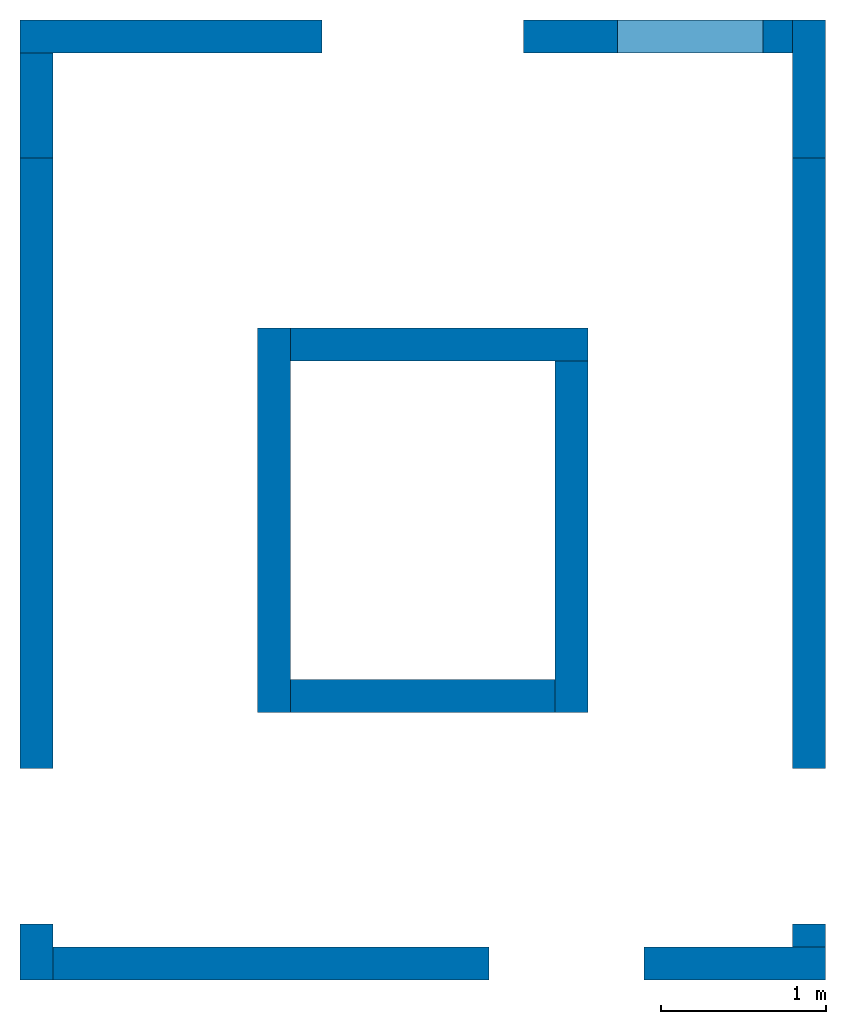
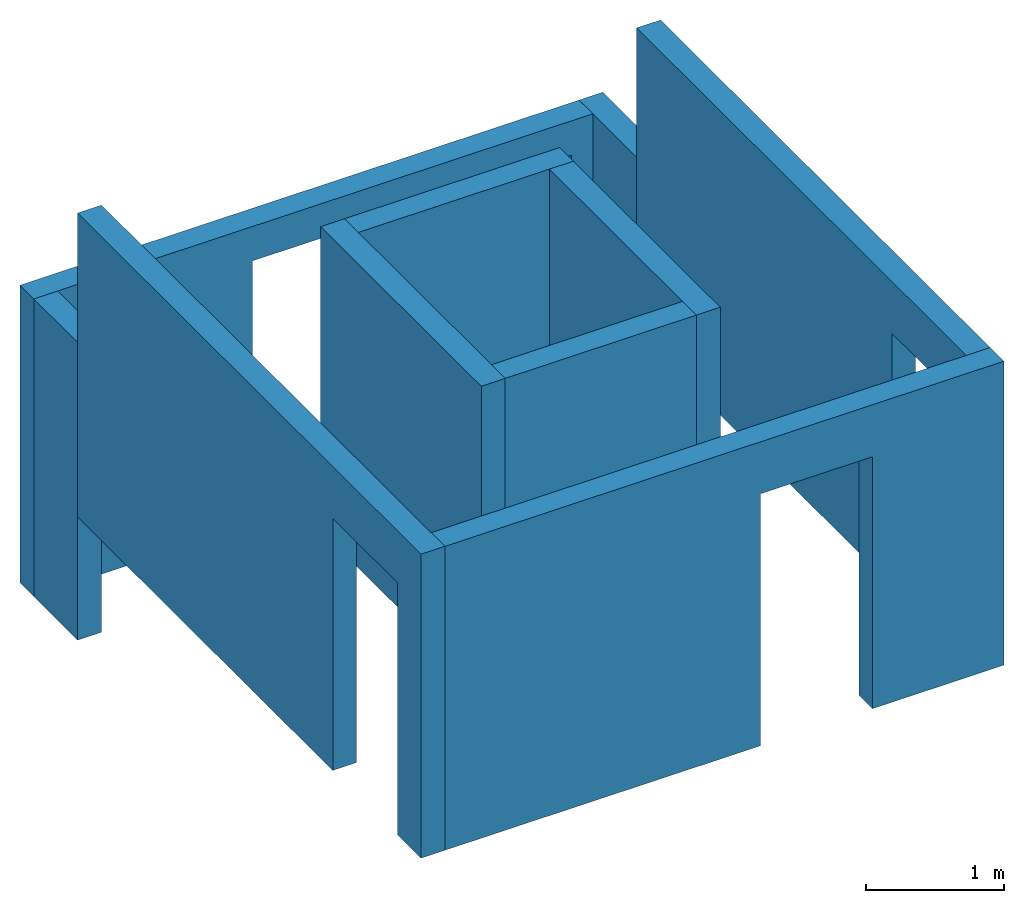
# One storey: 10 walls, 5 openings.
"""IFC2X3 building model written with IfcOpenShell, lengths in metres."""

from ifc_helpers import new_model, entity, si_unit, converted_unit, derived_unit, direction, frame, frame_2d, origin, origin_with_axes, place, context, subcontext, project, spatial, polyline, rectangle, outline, extrude, material, layer, layer_set, layer_usage, element, save


model = new_model("IFC2X3")

# Units and contexts
model_context = context("Model", 3, precision=1e-05, world=origin(), true_north=direction((0.772621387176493, -0.634867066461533)))
body_context = subcontext(model_context, "Body", "Model", "MODEL_VIEW")
ifc_project = project(units=[si_unit("LENGTHUNIT", "METRE"), si_unit("AREAUNIT", "SQUARE_METRE"), si_unit("VOLUMEUNIT", "CUBIC_METRE"), si_unit("MASSUNIT", "GRAM", prefix="KILO"), converted_unit("PLANEANGLEUNIT", "DEGREE", entity("IfcPlaneAngleMeasure", 0.0174532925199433), si_unit("PLANEANGLEUNIT", "RADIAN"), dimensions=[0, 0, 0, 0, 0, 0, 0]), derived_unit("THERMALTRANSMITTANCEUNIT", [(si_unit("POWERUNIT", "WATT"), 1), (si_unit("THERMODYNAMICTEMPERATUREUNIT", "KELVIN"), -1), (si_unit("LENGTHUNIT", "METRE"), -2)]), derived_unit("VOLUMETRICFLOWRATEUNIT", [(si_unit("LENGTHUNIT", "METRE"), 3), (converted_unit("TIMEUNIT", "hour", entity("IfcTimeMeasure", 3600.0), si_unit("TIMEUNIT", "SECOND"), dimensions=[0, 0, 1, 0, 0, 0, 0]), -1), (si_unit("LENGTHUNIT", "METRE"), -1)])], contexts=[model_context])

# Building, storey
building_placement = place(None, origin())
building = spatial("IfcBuilding", under=ifc_project, at=building_placement, Name="Gebäude", CompositionType="ELEMENT")
storey_placement = place(building_placement, origin())
storey = spatial("IfcBuildingStorey", under=building, at=storey_placement, Name="A", CompositionType="ELEMENT", Elevation=0.0)

# Wall, opening
ifc_material_1 = material()
ifc_layer_1 = layer(ifc_material_1, 0.2)
ifc_layer_set_1 = layer_set([ifc_layer_1])
ifc_layer_usage_1 = layer_usage(ifc_layer_set_1, "AXIS2", "POSITIVE", 0.0)
wall_1_placement = place(storey_placement, frame((45.4942994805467, -4.70251421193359, -0.17), z_axis=(0.0, 0.0, 1.0), x_axis=(0.0, -1.0, 0.0)))
wall_1 = element("IfcWallStandardCase", 1, at=wall_1_placement, inside=storey, material=ifc_layer_usage_1, context=body_context, shape_type="SweptSolid", body=[
    extrude(rectangle(XDim=4.78000004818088, YDim=0.2, at=frame_2d((2.39000002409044, 0.1), x_axis=(1.0, 0.0))), origin_with_axes(), (0.0, 0.0, 1.0), 2.69),
])
opening_1_placement = place(wall_1_placement, frame((3.70000001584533, 0.0, 0.0), z_axis=(0.0, 1.0, 0.0), x_axis=(0.0, 0.0, 1.0)))
element("IfcOpeningElement", 2, at=opening_1_placement, cuts=wall_1, Name="Fensteröffnung", ObjectType="Opening", context=body_context, shape_type="SweptSolid", body=[
    extrude(outline(polyline([(2.23, 0.940000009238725), (2.23, 0.0), (0.0, 0.0), (0.0, 0.940000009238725), (2.23, 0.940000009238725)])), origin_with_axes(), (0.0, 0.0, 1.0), 0.2),
])

ifc_material_2 = material()
ifc_layer_2 = layer(ifc_material_2, 0.2)
ifc_layer_set_2 = layer_set([ifc_layer_2])
ifc_layer_usage_2 = layer_usage(ifc_layer_set_2, "AXIS2", "POSITIVE", 0.0)
wall_2_placement = place(storey_placement, frame((41.0142994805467, -9.68251426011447, -0.17), z_axis=(0.0, 0.0, 1.0), x_axis=(0.0, 1.0, 0.0)))
wall_2 = element("IfcWallStandardCase", 3, at=wall_2_placement, inside=storey, material=ifc_layer_usage_2, context=body_context, shape_type="SweptSolid", body=[
    extrude(rectangle(XDim=4.9800000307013, YDim=0.2, at=frame_2d((2.49000001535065, 0.1), x_axis=(1.0, 0.0))), origin_with_axes(), (0.0, 0.0, 1.0), 2.69),
])
opening_2_placement = place(wall_2_placement, frame((0.34000002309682, 0.0, 0.0), z_axis=(0.0, 1.0, 0.0), x_axis=(0.0, 0.0, 1.0)))
element("IfcOpeningElement", 4, at=opening_2_placement, cuts=wall_2, Name="Fensteröffnung", ObjectType="Opening", context=body_context, shape_type="SweptSolid", body=[
    extrude(outline(polyline([(2.23, 0.940000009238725), (2.23, 0.0), (0.0, 0.0), (0.0, 0.940000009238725), (2.23, 0.940000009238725)])), origin_with_axes(), (0.0, 0.0, 1.0), 0.2),
])

ifc_material_3 = material()
ifc_layer_3 = layer(ifc_material_3, 0.2)
ifc_layer_set_3 = layer_set([ifc_layer_3])
ifc_layer_usage_3 = layer_usage(ifc_layer_set_3, "AXIS2", "POSITIVE", 0.0)
wall_3_placement = place(storey_placement, frame((45.6942994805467, -9.48251426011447, -0.17), z_axis=(0.0, 0.0, 1.0), x_axis=(-1.0, 0.0, 0.0)))
wall_3 = element("IfcWallStandardCase", 5, at=wall_3_placement, inside=storey, material=ifc_layer_usage_3, context=body_context, shape_type="SweptSolid", body=[
    extrude(rectangle(XDim=4.68, YDim=0.2, at=frame_2d((2.34, 0.1), x_axis=(1.0, 0.0))), origin_with_axes(), (0.0, 0.0, 1.0), 2.69),
])
opening_3_placement = place(wall_3_placement, frame((1.10000203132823, 0.0, 0.0), z_axis=(0.0, 1.0, 0.0), x_axis=(0.0, 0.0, 1.0)))
element("IfcOpeningElement", 6, at=opening_3_placement, cuts=wall_3, Name="Fensteröffnung", ObjectType="Opening", context=body_context, shape_type="SweptSolid", body=[
    extrude(outline(polyline([(2.23, 0.940000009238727), (2.23, 0.0), (0.0, 0.0), (0.0, 0.940000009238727), (2.23, 0.940000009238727)])), origin_with_axes(), (0.0, 0.0, 1.0), 0.2),
])

# Walls
ifc_material_4 = material()
ifc_layer_4 = layer(ifc_material_4, 0.2)
ifc_layer_set_4 = layer_set([ifc_layer_4])
ifc_layer_usage_4 = layer_usage(ifc_layer_set_4, "AXIS2", "POSITIVE", 0.0)
wall_4_placement = place(storey_placement, frame((42.2542994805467, -5.73251426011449, -0.17), z_axis=(0.0, 0.0, 1.0), x_axis=(0.0, -1.0, 0.0)))
element("IfcWallStandardCase", 7, at=wall_4_placement, inside=storey, material=ifc_layer_usage_4, context=body_context, shape_type="SweptSolid", body=[
    extrude(rectangle(XDim=2.32999999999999, YDim=0.2, at=frame_2d((1.16499999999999, 0.1), x_axis=(1.0, 0.0))), origin_with_axes(), (0.0, 0.0, 1.0), 2.69),
])
ifc_material_5 = material()
ifc_layer_5 = layer(ifc_material_5, 0.2)
ifc_layer_set_5 = layer_set([ifc_layer_5])
ifc_layer_usage_5 = layer_usage(ifc_layer_set_5, "AXIS2", "POSITIVE", 0.0)
wall_5_placement = place(storey_placement, frame((44.2542994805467, -5.73251426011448, -0.17), z_axis=(0.0, 0.0, 1.0), x_axis=(-1.0, 0.0, 0.0)))
element("IfcWallStandardCase", 8, at=wall_5_placement, inside=storey, material=ifc_layer_usage_5, context=body_context, shape_type="SweptSolid", body=[
    extrude(rectangle(XDim=1.8, YDim=0.2, at=frame_2d((0.9, 0.1), x_axis=(1.0, 0.0))), origin_with_axes(), (0.0, 0.0, 1.0), 2.69),
])
ifc_material_6 = material()
ifc_layer_6 = layer(ifc_material_6, 0.2)
ifc_layer_set_6 = layer_set([ifc_layer_6])
ifc_layer_usage_6 = layer_usage(ifc_layer_set_6, "AXIS2", "POSITIVE", 0.0)
wall_6_placement = place(storey_placement, frame((44.2542994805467, -8.06251426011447, -0.17), z_axis=(0.0, 0.0, 1.0), x_axis=(0.0, 1.0, 0.0)))
element("IfcWallStandardCase", 9, at=wall_6_placement, inside=storey, material=ifc_layer_usage_6, context=body_context, shape_type="SweptSolid", body=[
    extrude(rectangle(XDim=2.12999999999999, YDim=0.2, at=frame_2d((1.06499999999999, 0.1), x_axis=(1.0, 0.0))), origin_with_axes(), (0.0, 0.0, 1.0), 2.69),
])
ifc_material_7 = material()
ifc_layer_7 = layer(ifc_material_7, 0.2)
ifc_layer_set_7 = layer_set([ifc_layer_7])
ifc_layer_usage_7 = layer_usage(ifc_layer_set_7, "AXIS2", "POSITIVE", 0.0)
wall_7_placement = place(storey_placement, frame((42.4542994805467, -8.06251426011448, -0.17)))
element("IfcWallStandardCase", 10, at=wall_7_placement, inside=storey, material=ifc_layer_usage_7, context=body_context, shape_type="SweptSolid", body=[
    extrude(rectangle(XDim=1.6, YDim=0.2, at=frame_2d((0.8, 0.1), x_axis=(1.0, 0.0))), origin_with_axes(), (0.0, 0.0, 1.0), 2.69),
])
ifc_material_8 = material()
ifc_layer_8 = layer(ifc_material_8, 0.2)
ifc_layer_set_8 = layer_set([ifc_layer_8])
ifc_layer_usage_8 = layer_usage(ifc_layer_set_8, "AXIS2", "POSITIVE", 0.0)
wall_8_placement = place(storey_placement, frame((45.6942994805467, -4.70251421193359, -1.26), z_axis=(0.0, 0.0, 1.0), x_axis=(0.0, 1.0, 0.0)))
element("IfcWallStandardCase", 11, at=wall_8_placement, inside=storey, material=ifc_layer_usage_8, context=body_context, shape_type="SweptSolid", body=[
    extrude(rectangle(XDim=0.834999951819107, YDim=0.2, at=frame_2d((0.417499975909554, 0.1), x_axis=(1.0, 0.0))), origin_with_axes(), (0.0, 0.0, 1.0), 2.635),
])
ifc_material_9 = material()
ifc_layer_9 = layer(ifc_material_9, 0.2)
ifc_layer_set_9 = layer_set([ifc_layer_9])
ifc_layer_usage_9 = layer_usage(ifc_layer_set_9, "AXIS2", "POSITIVE", 0.0)
wall_9_placement = place(storey_placement, frame((40.8142994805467, -4.06751426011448, -1.26), z_axis=(0.0, 0.0, 1.0), x_axis=(0.0, -1.0, 0.0)))
element("IfcWallStandardCase", 12, at=wall_9_placement, inside=storey, material=ifc_layer_usage_9, context=body_context, shape_type="SweptSolid", body=[
    extrude(rectangle(XDim=0.634999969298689, YDim=0.2, at=frame_2d((0.317499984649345, 0.1), x_axis=(1.0, 0.0))), origin_with_axes(), (0.0, 0.0, 1.0), 2.635),
])

# Wall, openings
ifc_material_10 = material()
ifc_layer_10 = layer(ifc_material_10, 0.2)
ifc_layer_set_10 = layer_set([ifc_layer_10])
ifc_layer_usage_10 = layer_usage(ifc_layer_set_10, "AXIS2", "POSITIVE", 0.0)
wall_10_placement = place(storey_placement, frame((45.4942994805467, -3.86751426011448, -1.26), z_axis=(0.0, 0.0, 1.0), x_axis=(-1.0, 0.0, 0.0)))
wall_10 = element("IfcWallStandardCase", 13, at=wall_10_placement, inside=storey, material=ifc_layer_usage_10, context=body_context, shape_type="SweptSolid", body=[
    extrude(rectangle(XDim=4.68, YDim=0.2, at=frame_2d((2.34, 0.1), x_axis=(1.0, 0.0))), origin_with_axes(), (0.0, 0.0, 1.0), 2.635),
])
opening_4_placement = place(wall_10_placement, frame((0.180000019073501, 0.0, 1.07), z_axis=(0.0, 1.0, 0.0), x_axis=(0.0, 0.0, 1.0)))
element("IfcOpeningElement", 14, at=opening_4_placement, cuts=wall_10, Name="Fensteröffnung", ObjectType="Opening", context=body_context, shape_type="SweptSolid", body=[
    extrude(outline(polyline([(1.26, 0.879999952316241), (1.26, 0.0), (0.0, 0.0), (0.0, 0.879999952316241), (1.26, 0.879999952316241)])), origin_with_axes(), (0.0, 0.0, 1.0), 0.2),
])
opening_5_placement = place(wall_10_placement, frame((1.63000001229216, 0.0, 0.0), z_axis=(0.0, 1.0, 0.0), x_axis=(0.0, 0.0, 1.0)))
element("IfcOpeningElement", 15, at=opening_5_placement, cuts=wall_10, Name="Fensteröffnung", ObjectType="Opening", context=body_context, shape_type="SweptSolid", body=[
    extrude(outline(polyline([(2.33, 1.22), (2.33, 0.0), (0.0, 0.0), (0.0, 1.22), (2.33, 1.22)])), origin_with_axes(), (0.0, 0.0, 1.0), 0.2),
])

save(model, "model.ifc")
